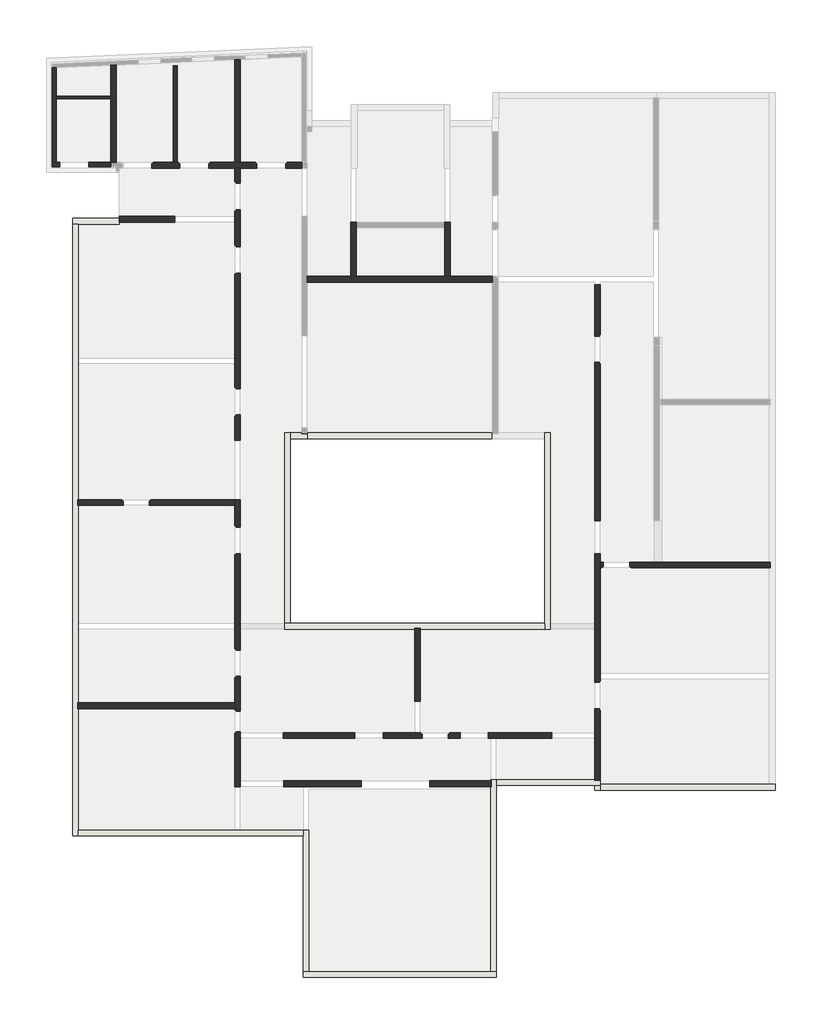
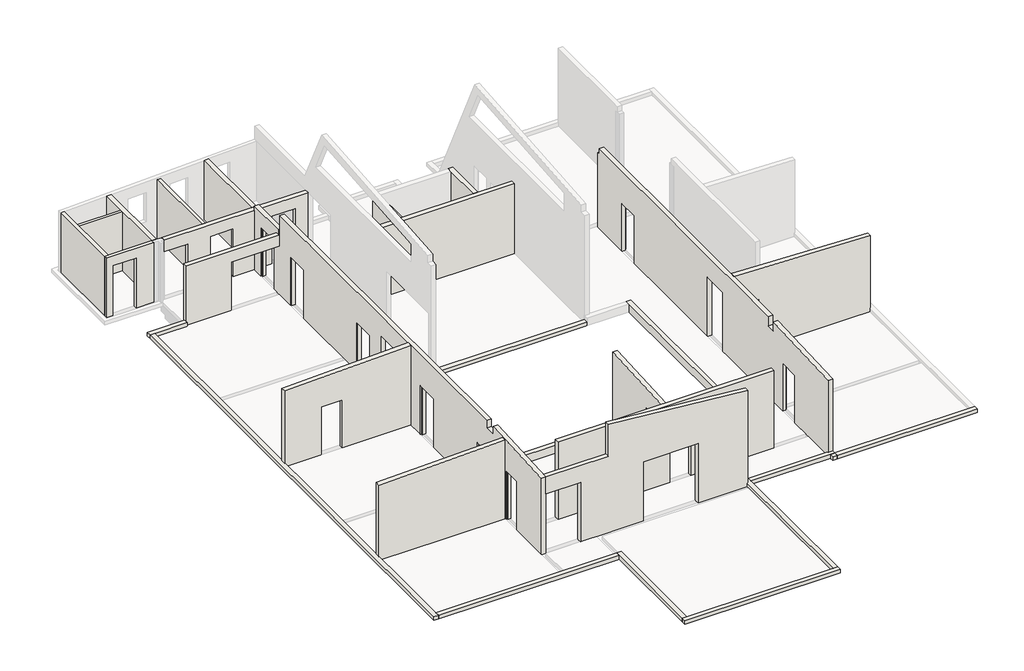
# One storey, part 1 of 2: 33 walls.
"""IFC4 building model written with IfcOpenShell, lengths in millimetres."""

import ifcopenshell
import ifcopenshell.guid

model = None  # the IFC model being written
_history = None  # IfcOwnerHistory: only IFC2X3 demands one
_inside = {}  # id of a spatial element -> (the spatial element, [elements in it])
_under = {}  # id of a project, library or spatial element -> (it, [spatial elements below it])
_declared = {}  # id of a project -> (the project, [libraries it declares])
_typed = {}  # id of a type object -> (the type object, [elements of that type])
_made_of = {}  # id of a material, layer set ... -> (it, [elements and type objects made of it])


def new_model(schema):
    """Start an empty IFC model of exactly this schema.

    Asked for "IFC4X3", IfcOpenShell would pick the latest addendum, in which some entities
    have other attributes; the version numbers below select the first issue.
    IFC2X3 requires an IfcOwnerHistory on every rooted entity: one is made here for all.
    """
    global model, _history
    if schema == "IFC4X3":
        model = ifcopenshell.file(schema_version=(4, 3, 0, 0))
    else:
        model = ifcopenshell.file(schema=schema)
    _inside.clear()
    _under.clear()
    _declared.clear()
    _typed.clear()
    _made_of.clear()
    _history = None
    if model.schema == "IFC2X3":
        org = make("IfcOrganization", Name="unknown")
        user = make(
            "IfcPersonAndOrganization",
            ThePerson=make("IfcPerson", FamilyName="unknown"),
            TheOrganization=org,
        )
        app = make(
            "IfcApplication",
            ApplicationDeveloper=org,
            Version="unknown",
            ApplicationFullName="unknown",
            ApplicationIdentifier="unknown",
        )
        _history = make(
            "IfcOwnerHistory",
            OwningUser=user,
            OwningApplication=app,
            ChangeAction="ADDED",
            CreationDate=0,
        )
    return model


def make(cls, **values):
    """One entity of the class cls with the attributes given. An attribute that is None is left unset."""
    return model.create_entity(
        cls, **{name: value for name, value in values.items() if value is not None}
    )


def rooted(cls, **values):
    """An entity with a GlobalId (a new one), such as an element, a storey or a relation."""
    return make(cls, GlobalId=ifcopenshell.guid.new(), OwnerHistory=_history, **values)


def si_unit(unit_type, name, prefix=None):
    """IfcSIUnit, for example si_unit("LENGTHUNIT", "METRE", prefix="MILLI")."""
    return make("IfcSIUnit", UnitType=unit_type, Prefix=prefix, Name=name)


def assignment(units):
    """IfcUnitAssignment: the units of a project."""
    return None if units is None else make("IfcUnitAssignment", Units=units)


def point(xyz):
    """IfcCartesianPoint."""
    return None if xyz is None else make("IfcCartesianPoint", Coordinates=xyz)


def direction(xyz):
    """IfcDirection."""
    return None if xyz is None else make("IfcDirection", DirectionRatios=xyz)


def frame(location, z_axis=None, x_axis=None):
    """IfcAxis2Placement3D, a coordinate frame: its origin and axes. An axis left out is left unset."""
    return make(
        "IfcAxis2Placement3D",
        Location=point(location),
        Axis=direction(z_axis),
        RefDirection=direction(x_axis),
    )


def origin():
    """The frame at (0, 0, 0) with its axes left unset."""
    return frame((0.0, 0.0, 0.0))


def place(relative_to, where):
    """IfcLocalPlacement: puts the frame where relative to a parent placement (None: the world)."""
    return make(
        "IfcLocalPlacement", PlacementRelTo=relative_to, RelativePlacement=where
    )


def context(
    kind, dimensions, precision=None, world=None, true_north=None, identifier=None
):
    """IfcGeometricRepresentationContext, for example the 3D "Model" context."""
    return make(
        "IfcGeometricRepresentationContext",
        ContextIdentifier=identifier,
        ContextType=kind,
        CoordinateSpaceDimension=dimensions,
        Precision=precision,
        WorldCoordinateSystem=world,
        TrueNorth=true_north,
    )


def project(units=None, contexts=None):
    """IfcProject with its units and contexts."""
    return rooted(
        "IfcProject",
        Name="project",
        RepresentationContexts=contexts,
        UnitsInContext=assignment(units),
    )


def spatial(cls, under=None, at=None, **own):
    """A site, building, storey or space (cls), placed at a placement, below another one or the project."""
    s = rooted(cls, ObjectPlacement=at, **own)
    if under is not None:
        _under.setdefault(under.id(), (under, []))[1].append(s)
    return s


def polyline(points):
    """IfcPolyline through the points."""
    return make("IfcPolyline", Points=[point(p) for p in points])


def outline(outer, holes=None, kind="AREA"):
    """IfcArbitraryClosedProfileDef: a profile drawn as a closed curve; with holes, ...WithVoids."""
    if holes is None:
        return make("IfcArbitraryClosedProfileDef", ProfileType=kind, OuterCurve=outer)
    return make(
        "IfcArbitraryProfileDefWithVoids",
        ProfileType=kind,
        OuterCurve=outer,
        InnerCurves=holes,
    )


def extrude(swept, where, along, depth):
    """IfcExtrudedAreaSolid: the profile swept, set in the frame where, extruded along a direction by depth."""
    return make(
        "IfcExtrudedAreaSolid",
        SweptArea=swept,
        Position=where,
        ExtrudedDirection=direction(along),
        Depth=depth,
    )


def faces_of(points, faces, orient=None, outer=None):
    """IfcFace entities. A face is a list of loops; a loop is a list of indices into points, from 0.

    orient and outer hold one flag for each loop. By default every Orientation is true, the
    first loop of a face is its IfcFaceOuterBound and the others are IfcFaceBound.
    """
    made = []
    for i, loops in enumerate(faces):
        bounds = []
        for j, loop in enumerate(loops):
            is_outer = j == 0 if outer is None else outer[i][j]
            bounds.append(
                make(
                    "IfcFaceOuterBound" if is_outer else "IfcFaceBound",
                    Bound=make("IfcPolyLoop", Polygon=[points[k] for k in loop]),
                    Orientation=True if orient is None else orient[i][j],
                )
            )
        made.append(make("IfcFace", Bounds=bounds))
    return made


def faceted_brep(points, faces, orient=None, outer=None, voids=None):
    """IfcFacetedBrep: a solid bounded by flat faces; with voids (closed shells), ...WithVoids."""
    shared = [point(p) for p in points]
    hull = make("IfcClosedShell", CfsFaces=faces_of(shared, faces, orient, outer))
    if voids is None:
        return make("IfcFacetedBrep", Outer=hull)
    return make(
        "IfcFacetedBrepWithVoids",
        Outer=hull,
        Voids=[
            make(cls, CfsFaces=faces_of(shared, fs, o, b)) for cls, fs, o, b in voids
        ],
    )


def shape(context_of_items, identifier, shape_type, items):
    """IfcShapeRepresentation: the items that make up one representation, for example the "Body"."""
    return make(
        "IfcShapeRepresentation",
        ContextOfItems=context_of_items,
        RepresentationIdentifier=identifier,
        RepresentationType=shape_type,
        Items=items,
    )


def made_of(thing, what):
    """Note that an element or type object is made of a material, layer set ...; save() writes the relation."""
    if what is not None:
        _made_of.setdefault(what.id(), (what, []))[1].append(thing)
    return thing


def element(
    cls,
    number,
    at=None,
    inside=None,
    cuts=None,
    type_object=None,
    material=None,
    context=None,
    identifier="Body",
    shape_type=None,
    held_by="IfcProductDefinitionShape",
    body=None,
    shapes=None,
    **own,
):
    """One element of the class cls, such as IfcWall. Its Tag is "e" and its number.

    at: its placement. inside: the storey or other place that contains it. cuts: it is an
    opening in that element (IfcRelVoidsElement). A single representation is given by context,
    identifier, shape_type and body (its items); several are given by shapes. held_by: the class
    of the entity that holds the representations. save() writes the other relations.
    """
    e = rooted(cls, Tag="e%d" % number, ObjectPlacement=at, **own)
    if body is not None:
        shapes = [shape(context, identifier, shape_type, body)]
    if shapes is not None:
        e.Representation = make(held_by, Representations=shapes)
    if inside is not None:
        _inside.setdefault(inside.id(), (inside, []))[1].append(e)
    if cuts is not None:
        rooted(
            "IfcRelVoidsElement", RelatingBuildingElement=cuts, RelatedOpeningElement=e
        )
    if type_object is not None:
        _typed.setdefault(type_object.id(), (type_object, []))[1].append(e)
    return made_of(e, material)


def aggregate(whole, parts):
    """IfcRelAggregates: a whole, such as a stair, and the parts it consists of."""
    return rooted("IfcRelAggregates", RelatingObject=whole, RelatedObjects=parts)


def save(model, path):
    """Write the relations noted so far, then the file.

    IfcRelAggregates (storeys below a building ...), IfcRelContainedInSpatialStructure (elements
    in a storey), IfcRelDefinesByType, IfcRelAssociatesMaterial and IfcRelDeclares: one each for
    every whole, place, type object, material and project.
    """
    for whole, parts in _under.values():
        aggregate(whole, parts)
    for where, things in _inside.values():
        rooted(
            "IfcRelContainedInSpatialStructure",
            RelatedElements=things,
            RelatingStructure=where,
        )
    for kind, things in _typed.values():
        rooted("IfcRelDefinesByType", RelatedObjects=things, RelatingType=kind)
    for what, things in _made_of.values():
        rooted("IfcRelAssociatesMaterial", RelatedObjects=things, RelatingMaterial=what)
    for by, libraries in _declared.values():
        rooted("IfcRelDeclares", RelatingContext=by, RelatedDefinitions=libraries)
    model.write(path)


model = new_model("IFC4")

# Units and contexts
model_context = context("Model", 3, world=origin())
ifc_project = project(units=[si_unit("LENGTHUNIT", "METRE", prefix="MILLI")], contexts=[model_context])

# Site, building, storey
site = spatial("IfcSite", under=ifc_project)
building = spatial("IfcBuilding", under=site)
storey = spatial("IfcBuildingStorey", under=building, Name="Dalle brute", Elevation=-170.0)

# Walls
placement = place(None, origin())
element("IfcWall", 1, ObjectType="Ext.surbot 17", at=placement, inside=storey, context=model_context, shape_type="Brep", body=[
    faceted_brep([(-5838.9922803, -18073.3410127, -170.0), (1018.0077197, -18073.3410127, -170.0), (1018.0077197, -18073.3410127, 0.0), (-5838.9922803, -18073.3410127, 0.0), (-5838.9922803, -17873.3410127, -170.0), (-5838.9922803, -17873.3410127, 0.0), (-5638.9922803, -17873.3410127, 0.0), (818.0077197, -17873.3410127, 0.0), (1018.0077197, -17873.3410127, 0.0), (1018.0077197, -17873.3410127, -170.0), (818.0077197, -17873.3410127, -170.0), (-5638.9922803, -17873.3410127, -170.0)], [[[0, 1, 2, 3]], [[4, 5, 6, 7, 8, 9, 10, 11]], [[1, 0, 4, 11, 10, 9]], [[3, 2, 8, 7, 6, 5]], [[2, 1, 9, 8]], [[0, 3, 5, 4]]]),
])
element("IfcWall", 2, ObjectType="Ext.surbot 17", at=placement, inside=storey, context=model_context, shape_type="Brep", body=[
    faceted_brep([(818.0077197, -11046.3410127, -170.0), (818.0077197, -17873.3410127, -170.0), (818.0077197, -17873.3410127, 0.0), (818.0077197, -11046.3410127, 0.0), (1018.0077197, -11046.3410127, -170.0), (1018.0077197, -11046.3410127, 0.0), (1018.0077197, -11246.3410127, 0.0), (1018.0077197, -17873.3410127, 0.0), (1018.0077197, -17873.3410127, -170.0), (1018.0077197, -11246.3410127, -170.0)], [[[0, 1, 2, 3]], [[4, 5, 6, 7, 8, 9]], [[1, 0, 4, 9, 8]], [[3, 2, 7, 6, 5]], [[2, 1, 8, 7]], [[0, 3, 5, 4]]]),
])
element("IfcWall", 3, ObjectType="Ext.surbot 17", at=placement, inside=storey, context=model_context, shape_type="Brep", body=[
    faceted_brep([(-5638.9922803, -17873.3410127, -170.0), (-5638.9922803, -12845.3410127, -170.0), (-5638.9922803, -12845.3410127, 0.0), (-5638.9922803, -17873.3410127, 0.0), (-5838.9922803, -17873.3410127, -170.0), (-5838.9922803, -17873.3410127, 0.0), (-5838.9922803, -13045.3410127, 0.0), (-5838.9922803, -12845.3410127, 0.0), (-5838.9922803, -12845.3410127, -170.0), (-5838.9922803, -13045.3410127, -170.0)], [[[0, 1, 2, 3]], [[4, 5, 6, 7, 8, 9]], [[1, 0, 4, 9, 8]], [[3, 2, 7, 6, 5]], [[0, 3, 5, 4]], [[2, 1, 8, 7]]]),
])
element("IfcWall", 4, ObjectType="Ext.surbot 17", at=placement, inside=storey, context=model_context, shape_type="SweptSolid", body=[
    extrude(outline(polyline([(-13820.5383156, -12845.3410127), (-5838.9922803, -12845.3410127), (-5838.9922803, -13045.3410127), (-13820.5383156, -13045.3410127), (-13820.5383156, -12845.3410127)])), frame((0.0, 0.0, -170.0), z_axis=(0.0, 0.0, 1.0), x_axis=(1.0, 0.0, 0.0)), (0.0, 0.0, 1.0), 170.0),
])
element("IfcWall", 5, ObjectType="Ext.surbot 17", at=placement, inside=storey, context=model_context, shape_type="Brep", body=[
    faceted_brep([(-13820.5383156, -13045.3410127, -170.0), (-13820.5383156, -12845.3410127, -170.0), (-13820.5383156, 8675.6589873, -170.0), (-13820.5383156, 8675.6589873, 0.0), (-13820.5383156, -12845.3410127, 0.0), (-13820.5383156, -13045.3410127, 0.0), (-14020.5383156, -13045.3410127, -170.0), (-14020.5383156, -13045.3410127, 0.0), (-14020.5383156, 8675.6589873, 0.0), (-14020.5383156, 8675.6589873, -170.0)], [[[0, 1, 2, 3, 4, 5]], [[6, 7, 8, 9]], [[2, 1, 0, 6, 9]], [[5, 4, 3, 8, 7]], [[3, 2, 9, 8]], [[0, 5, 7, 6]]]),
])
element("IfcWall", 6, ObjectType="Ext.surbot 17", at=placement, inside=storey, context=model_context, shape_type="Brep", body=[
    faceted_brep([(4718.0077197, -11046.3410127, -170.0), (1018.0077197, -11046.3410127, -170.0), (1018.0077197, -11046.3410127, 0.0), (4718.0077197, -11046.3410127, 0.0), (4718.0077197, -11246.3410127, -170.0), (4718.0077197, -11246.3410127, 0.0), (4519.0077197, -11246.3410127, 0.0), (1018.0077197, -11246.3410127, 0.0), (1018.0077197, -11246.3410127, -170.0), (4519.0077197, -11246.3410127, -170.0)], [[[0, 1, 2, 3]], [[4, 5, 6, 7, 8, 9]], [[1, 0, 4, 9, 8]], [[3, 2, 7, 6, 5]], [[0, 3, 5, 4]], [[2, 1, 8, 7]]]),
])
element("IfcWall", 7, ObjectType="Ext.surbot 17", at=placement, inside=storey, context=model_context, shape_type="Brep", body=[
    faceted_brep([(10919.0077197, -11219.3410127, -170.0), (10719.0077197, -11219.3410127, -170.0), (4719.0077197, -11219.3410127, -170.0), (4719.0077197, -11219.3410127, 0.0), (10719.0077197, -11219.3410127, 0.0), (10919.0077197, -11219.3410127, 0.0), (10919.0077197, -11419.3410127, -170.0), (10919.0077197, -11419.3410127, 0.0), (4719.0077197, -11419.3410127, 0.0), (4719.0077197, -11419.3410127, -170.0)], [[[0, 1, 2, 3, 4, 5]], [[6, 7, 8, 9]], [[2, 1, 0, 6, 9]], [[3, 2, 9, 8]], [[5, 4, 3, 8, 7]], [[0, 5, 7, 6]]]),
])
element("IfcWall", 8, ObjectType="Ext.surbot 17", at=placement, inside=storey, context=model_context, shape_type="Brep", body=[
    faceted_brep([(4519.0077197, -11246.3410127, -170.0), (4519.0077197, -11419.3410127, -170.0), (4519.0077197, -11419.3410127, 0.0), (4519.0077197, -11246.3410127, 0.0), (4719.0077197, -11246.3410127, -170.0), (4719.0077197, -11246.3410127, 0.0), (4719.0077197, -11419.3410127, 0.0), (4719.0077197, -11419.3410127, -170.0), (4718.0077197, -11246.3410127, -170.0), (4718.0077197, -11246.3410127, 0.0)], [[[0, 1, 2, 3]], [[4, 5, 6, 7]], [[1, 0, 8, 4, 7]], [[2, 1, 7, 6]], [[3, 2, 6, 5, 9]], [[0, 3, 9, 5, 4, 8]]]),
])
element("IfcWall", 9, ObjectType="Ext.surbot 37", at=placement, inside=storey, context=model_context, shape_type="Brep", body=[
    faceted_brep([(2935.0077197, -5705.3410127, -170.0), (2935.0077197, 1261.6589873, -170.0), (2935.0077197, 1261.6589873, 200.0), (2935.0077197, -5705.3410127, 200.0), (2735.0077197, -5705.3410127, -170.0), (2735.0077197, -5705.3410127, 200.0), (2735.0077197, -5505.3410127, 200.0), (2735.0077197, 1061.6589873, 200.0), (2735.0077197, 1261.6589873, 200.0), (2735.0077197, 1261.6589873, -170.0), (2735.0077197, 1061.6589873, -170.0), (2735.0077197, -5505.3410127, -170.0)], [[[0, 1, 2, 3]], [[4, 5, 6, 7, 8, 9, 10, 11]], [[1, 0, 4, 11, 10, 9]], [[3, 2, 8, 7, 6, 5]], [[0, 3, 5, 4]], [[2, 1, 9, 8]]]),
])
element("IfcWall", 10, ObjectType="Ext.surbot 37", at=placement, inside=storey, context=model_context, shape_type="Brep", body=[
    faceted_brep([(2735.0077197, -5505.3410127, -170.0), (-6294.9922803, -5505.3410127, -170.0), (-6494.9922803, -5505.3410127, -170.0), (-6494.9922803, -5505.3410127, 200.0), (-6294.9922803, -5505.3410127, 200.0), (2735.0077197, -5505.3410127, 200.0), (2735.0077197, -5705.3410127, -170.0), (2735.0077197, -5705.3410127, 200.0), (-6494.9922803, -5705.3410127, 200.0), (-6494.9922803, -5705.3410127, -170.0)], [[[0, 1, 2, 3, 4, 5]], [[6, 7, 8, 9]], [[2, 1, 0, 6, 9]], [[5, 4, 3, 8, 7]], [[3, 2, 9, 8]], [[0, 5, 7, 6]]]),
])
element("IfcWall", 11, ObjectType="Ext.surbot 37", at=placement, inside=storey, context=model_context, shape_type="Brep", body=[
    faceted_brep([(-6294.9922803, -5505.3410127, -170.0), (-6294.9922803, 1061.6589873, -170.0), (-6294.9922803, 1261.6589873, -170.0), (-6294.9922803, 1261.6589873, 200.0), (-6294.9922803, 1061.6589873, 200.0), (-6294.9922803, -5505.3410127, 200.0), (-6494.9922803, -5505.3410127, -170.0), (-6494.9922803, -5505.3410127, 200.0), (-6494.9922803, 1261.6589873, 200.0), (-6494.9922803, 1261.6589873, -170.0)], [[[0, 1, 2, 3, 4, 5]], [[6, 7, 8, 9]], [[2, 1, 0, 6, 9]], [[5, 4, 3, 8, 7]], [[0, 5, 7, 6]], [[3, 2, 9, 8]]]),
])
element("IfcWall", 12, ObjectType="Ext.surbot 17", at=placement, inside=storey, context=model_context, shape_type="Brep", body=[
    faceted_brep([(-12375.5383156, 8875.6589873, -170.0), (-14020.5383156, 8875.6589873, -170.0), (-14020.5383156, 8875.6589873, 0.0), (-12375.5383156, 8875.6589873, 0.0), (-12375.5383156, 8675.6589873, -170.0), (-12375.5383156, 8675.6589873, 0.0), (-13820.5383156, 8675.6589873, 0.0), (-14020.5383156, 8675.6589873, 0.0), (-14020.5383156, 8675.6589873, -170.0), (-13820.5383156, 8675.6589873, -170.0)], [[[0, 1, 2, 3]], [[4, 5, 6, 7, 8, 9]], [[1, 0, 4, 9, 8]], [[3, 2, 7, 6, 5]], [[0, 3, 5, 4]], [[2, 1, 8, 7]]]),
])
element("IfcWall", 13, ObjectType="Ext.surbot 37", at=placement, inside=storey, context=model_context, shape_type="SweptSolid", body=[
    extrude(outline(polyline([(-5685.5383156, 1061.6589873), (-6294.9922803, 1061.6589873), (-6294.9922803, 1261.6589873), (-5685.5383156, 1261.6589873), (-5685.5383156, 1061.6589873)])), frame((0.0, 0.0, -170.0), z_axis=(0.0, 0.0, 1.0), x_axis=(1.0, 0.0, 0.0)), (0.0, 0.0, 1.0), 370.0),
])
element("IfcWall", 14, ObjectType="Ext.surbot 17", at=placement, inside=storey, context=model_context, shape_type="SweptSolid", body=[
    extrude(outline(polyline([(884.4616844, 1061.6589873), (-5685.5383156, 1061.6589873), (-5685.5383156, 1261.6589873), (884.4616844, 1261.6589873), (884.4616844, 1061.6589873)])), frame((0.0, 0.0, -170.0), z_axis=(0.0, 0.0, 1.0), x_axis=(1.0, 0.0, 0.0)), (0.0, 0.0, 1.0), 170.0),
])
element("IfcWall", 15, ObjectType="Ext. BBM 10 cm", at=placement, inside=storey, context=model_context, shape_type="SweptSolid", body=[
    extrude(outline(polyline([(-14599.5383156, 13221.6589873), (-12675.5383156, 13221.6589873), (-12675.5383156, 13121.6589873), (-14599.5383156, 13121.6589873), (-14599.5383156, 13221.6589873)])), frame((0.0, 0.0, -170.0), z_axis=(0.0, 0.0, 1.0), x_axis=(1.0, 0.0, 0.0)), (0.0, 0.0, 1.0), 2770.0),
])
element("IfcWall", 16, ObjectType="Ext. BBM 15 cm", at=placement, inside=storey, context=model_context, shape_type="Brep", body=[
    faceted_brep([(-14749.5383156, 10716.6589873, -170.0), (-14484.5383156, 10716.6589873, -170.0), (-14484.5383156, 10716.6589873, 2165.0), (-13455.5383156, 10716.6589873, 2165.0), (-13455.5383156, 10716.6589873, -170.0), (-12675.5383156, 10716.6589873, -170.0), (-12675.5383156, 10716.6589873, 2600.0), (-14749.5383156, 10716.6589873, 2600.0), (-14749.5383156, 10866.6589873, -170.0), (-14749.5383156, 10866.6589873, 2600.0), (-14599.5383156, 10866.6589873, 2600.0), (-12675.5383156, 10866.6589873, 2600.0), (-12675.5383156, 10866.6589873, -170.0), (-13455.5383156, 10866.6589873, -170.0), (-13455.5383156, 10866.6589873, 2165.0), (-14484.5383156, 10866.6589873, 2165.0), (-14484.5383156, 10866.6589873, -170.0), (-14599.5383156, 10866.6589873, -170.0)], [[[0, 1, 2, 3, 4, 5, 6, 7]], [[8, 9, 10, 11, 12, 13, 14, 15, 16, 17]], [[0, 7, 9, 8]], [[5, 4, 13, 12]], [[6, 5, 12, 11]], [[7, 6, 11, 10, 9]], [[1, 0, 8, 17, 16]], [[2, 1, 16, 15]], [[3, 2, 15, 14]], [[4, 3, 14, 13]]]),
])
element("IfcWall", 17, ObjectType="Ext. BBM 15 cm", at=placement, inside=storey, context=model_context, shape_type="SweptSolid", body=[
    extrude(outline(polyline([(-14749.5383156, 10866.6589873), (-14749.5383156, 14226.656559), (-14599.5383156, 14233.2240998), (-14599.5383156, 10866.6589873), (-14749.5383156, 10866.6589873)])), frame((0.0, 0.0, -170.0), z_axis=(0.0, 0.0, 1.0), x_axis=(1.0, 0.0, 0.0)), (0.0, 0.0, 1.0), 2770.0),
])
element("IfcWall", 18, ObjectType="Ext. BBM 15 cm", at=placement, inside=storey, context=model_context, shape_type="SweptSolid", body=[
    extrude(outline(polyline([(-10455.5383156, 10866.6589873), (-10455.5383156, 14298.3849689), (-10305.5383156, 14298.3849689), (-10305.5383156, 10866.6589873), (-10455.5383156, 10866.6589873)])), frame((0.0, 0.0, -170.0), z_axis=(0.0, 0.0, 1.0), x_axis=(1.0, 0.0, 0.0)), (0.0, 0.0, 1.0), 2770.0),
])
element("IfcWall", 19, ObjectType="Ext. BBM 20 cm", at=placement, inside=storey, context=model_context, shape_type="SweptSolid", body=[
    extrude(outline(polyline([(-12675.5383156, 10866.6589873), (-12675.5383156, 14317.4637575), (-12475.5383156, 14326.2204786), (-12475.5383156, 10866.6589873), (-12675.5383156, 10866.6589873)])), frame((0.0, 0.0, -170.0), z_axis=(0.0, 0.0, 1.0), x_axis=(1.0, 0.0, 0.0)), (0.0, 0.0, 1.0), 2770.0),
])
element("IfcWall", 20, ObjectType="Ext. BBM 20 cm", at=placement, inside=storey, context=model_context, shape_type="SweptSolid", body=[
    extrude(outline(polyline([(-8265.5383156, 10866.6589873), (-8265.5383156, 14510.5494592), (-8065.5383156, 14519.3061804), (-8065.5383156, 10866.6589873), (-8265.5383156, 10866.6589873)])), frame((0.0, 0.0, -170.0), z_axis=(0.0, 0.0, 1.0), x_axis=(1.0, 0.0, 0.0)), (0.0, 0.0, 1.0), 2770.0),
])
element("IfcWall", 21, ObjectType="Ext. BBM 20 cm", at=placement, inside=storey, context=model_context, shape_type="SweptSolid", body=[
    extrude(outline(polyline([(-5680.3410127, -170.0), (-8260.3410127, -170.0), (-8260.3410127, 2600.0), (-9380.3410127, 2600.0), (-9380.3410127, 3460.0), (-5680.3410127, 3660.0), (-5680.3410127, -170.0)])), frame((-1873.2652979, 0.0, 0.0), z_axis=(1.0, 0.0, 0.0), x_axis=(0.0, 1.0, 0.0)), (0.0, 0.0, 1.0), 200.0),
])
element("IfcWall", 22, ObjectType="Ext. BBM 20 cm", at=placement, inside=storey, context=model_context, shape_type="SweptSolid", body=[
    extrude(outline(polyline([(-170.0, -8265.5383156), (3510.0, -8265.5383156), (3350.0, -13845.5383156), (-170.0, -13845.5383156), (-170.0, -8265.5383156)])), frame((0.0, -8528.3410127, 0.0), z_axis=(0.0, 1.0, 0.0), x_axis=(0.0, 0.0, 1.0)), (0.0, 0.0, 1.0), 200.0),
])
element("IfcWall", 23, ObjectType="Ext. BBM 20 cm", at=placement, inside=storey, context=model_context, shape_type="Brep", body=[
    faceted_brep([(-13845.5383156, -1113.3410127, -170.0), (-13845.5383156, -1113.3410127, 3370.0), (-8265.5383156, -1113.3410127, 3560.0), (-8265.5383156, -1113.3410127, -170.0), (-11245.5383156, -1113.3410127, -170.0), (-11245.5383156, -1113.3410127, 2110.0), (-12280.5383156, -1113.3410127, 2110.0), (-12280.5383156, -1113.3410127, -170.0), (-13845.5383156, -1313.3410127, 3370.0), (-13845.5383156, -1313.3410127, -170.0), (-12230.5383156, -1313.3410127, -170.0), (-12230.5383156, -1313.3410127, 2060.0), (-11295.5383156, -1313.3410127, 2060.0), (-11295.5383156, -1313.3410127, -170.0), (-8265.5383156, -1313.3410127, -170.0), (-8265.5383156, -1313.3410127, 3560.0), (-12280.5383156, -1163.3410127, -170.0), (-12230.5383156, -1163.3410127, -170.0), (-11295.5383156, -1163.3410127, -170.0), (-11245.5383156, -1163.3410127, -170.0), (-12230.5383156, -1163.3410127, 2060.0), (-11295.5383156, -1163.3410127, 2060.0), (-11245.5383156, -1163.3410127, 2110.0), (-12280.5383156, -1163.3410127, 2110.0)], [[[0, 1, 2, 3, 4, 5, 6, 7]], [[8, 9, 10, 11, 12, 13, 14, 15]], [[9, 0, 7, 16, 17, 10]], [[3, 14, 13, 18, 19, 4]], [[1, 0, 9, 8]], [[3, 2, 15, 14]], [[2, 1, 8, 15]], [[20, 21, 12, 11]], [[21, 18, 13, 12]], [[17, 20, 11, 10]], [[19, 22, 5, 4]], [[21, 20, 17, 16, 23, 22, 19, 18]], [[5, 22, 23, 6]], [[23, 16, 7, 6]]]),
])
element("IfcWall", 24, ObjectType="Ext. BBM 20 cm", at=placement, inside=storey, context=model_context, shape_type="Brep", body=[
    faceted_brep([(4719.0077197, -3333.3410127, -170.0), (4719.0077197, -3333.3410127, 3580.0), (10744.0077197, -3333.3410127, 3370.0), (10744.0077197, -3333.3410127, -170.0), (5754.0077197, -3333.3410127, -170.0), (5754.0077197, -3333.3410127, 2060.0), (4819.0077197, -3333.3410127, 2060.0), (4819.0077197, -3333.3410127, -170.0), (4719.0077197, -3533.3410127, 3580.0), (4719.0077197, -3533.3410127, -170.0), (4769.0077197, -3533.3410127, -170.0), (4769.0077197, -3533.3410127, 2110.0), (5804.0077197, -3533.3410127, 2110.0), (5804.0077197, -3533.3410127, -170.0), (10744.0077197, -3533.3410127, -170.0), (10744.0077197, -3533.3410127, 3370.0), (5754.0077197, -3483.3410127, 2060.0), (4819.0077197, -3483.3410127, 2060.0), (5754.0077197, -3483.3410127, -170.0), (4819.0077197, -3483.3410127, -170.0), (5804.0077197, -3483.3410127, 2110.0), (5804.0077197, -3483.3410127, -170.0), (4769.0077197, -3483.3410127, 2110.0), (4769.0077197, -3483.3410127, -170.0)], [[[0, 1, 2, 3, 4, 5, 6, 7]], [[8, 9, 10, 11, 12, 13, 14, 15]], [[16, 17, 6, 5]], [[18, 16, 5, 4]], [[17, 19, 7, 6]], [[12, 20, 21, 13]], [[17, 16, 18, 21, 20, 22, 23, 19]], [[20, 12, 11, 22]], [[23, 22, 11, 10]], [[9, 0, 7, 19, 23, 10]], [[3, 14, 13, 21, 18, 4]], [[1, 0, 9, 8]], [[3, 2, 15, 14]], [[2, 1, 8, 15]]]),
])
element("IfcWall", 25, ObjectType="Ext. BBM 20 cm", at=placement, inside=storey, context=model_context, shape_type="SweptSolid", body=[
    extrude(outline(polyline([(2090.0, -8265.5383156), (2600.0, -8265.5383156), (2600.0, -12375.5383156), (-170.0, -12375.5383156), (-170.0, -10400.5383156), (2090.0, -10400.5383156), (2090.0, -8265.5383156)])), frame((0.0, 8746.6589873, 0.0), z_axis=(0.0, 1.0, 0.0), x_axis=(0.0, 0.0, 1.0)), (0.0, 0.0, 1.0), 200.0),
])
element("IfcWall", 26, ObjectType="Ext. BBM 20 cm", at=placement, inside=storey, context=model_context, shape_type="Brep", body=[
    faceted_brep([(-5886.5383156, 10666.6589873, -170.0), (-5886.5383156, 10666.6589873, 2600.0), (-12240.5383156, 10666.6589873, 2600.0), (-12240.5383156, 10666.6589873, 2060.0), (-11205.5383156, 10666.6589873, 2060.0), (-11205.5383156, 10666.6589873, -170.0), (-10220.5383156, 10666.6589873, -170.0), (-10220.5383156, 10666.6589873, 2060.0), (-9185.5383156, 10666.6589873, 2060.0), (-9185.5383156, 10666.6589873, -170.0), (-7493.5383156, 10666.6589873, -170.0), (-7493.5383156, 10666.6589873, 2060.0), (-6458.5383156, 10666.6589873, 2060.0), (-6458.5383156, 10666.6589873, -170.0), (-5886.5383156, 10866.6589873, 2600.0), (-5886.5383156, 10866.6589873, -170.0), (-6408.5383156, 10866.6589873, -170.0), (-6408.5383156, 10866.6589873, 2110.0), (-7543.5383156, 10866.6589873, 2110.0), (-7543.5383156, 10866.6589873, -170.0), (-8065.5383156, 10866.6589873, -170.0), (-8265.5383156, 10866.6589873, -170.0), (-9135.5383156, 10866.6589873, -170.0), (-9135.5383156, 10866.6589873, 2110.0), (-10270.5383156, 10866.6589873, 2110.0), (-10270.5383156, 10866.6589873, -170.0), (-10305.5383156, 10866.6589873, -170.0), (-10455.5383156, 10866.6589873, -170.0), (-11155.5383156, 10866.6589873, -170.0), (-11155.5383156, 10866.6589873, 2110.0), (-12240.5383156, 10866.6589873, 2110.0), (-12240.5383156, 10866.6589873, 2600.0), (-10455.5383156, 10866.6589873, 2600.0), (-10305.5383156, 10866.6589873, 2600.0), (-8265.5383156, 10866.6589873, 2600.0), (-8065.5383156, 10866.6589873, 2600.0), (-6458.5383156, 10816.6589873, -170.0), (-6408.5383156, 10816.6589873, -170.0), (-7493.5383156, 10816.6589873, -170.0), (-9185.5383156, 10816.6589873, -170.0), (-9135.5383156, 10816.6589873, -170.0), (-7543.5383156, 10816.6589873, -170.0), (-10220.5383156, 10816.6589873, -170.0), (-11205.5383156, 10816.6589873, -170.0), (-11155.5383156, 10816.6589873, -170.0), (-10270.5383156, 10816.6589873, -170.0), (-12240.5383156, 10816.6589873, 2110.0), (-12240.5383156, 10816.6589873, 2060.0), (-7493.5383156, 10816.6589873, 2060.0), (-6458.5383156, 10816.6589873, 2060.0), (-6408.5383156, 10816.6589873, 2110.0), (-7543.5383156, 10816.6589873, 2110.0), (-10220.5383156, 10816.6589873, 2060.0), (-9185.5383156, 10816.6589873, 2060.0), (-9135.5383156, 10816.6589873, 2110.0), (-10270.5383156, 10816.6589873, 2110.0), (-11205.5383156, 10816.6589873, 2060.0), (-11155.5383156, 10816.6589873, 2110.0)], [[[0, 1, 2, 3, 4, 5, 6, 7, 8, 9, 10, 11, 12, 13]], [[14, 15, 16, 17, 18, 19, 20, 21, 22, 23, 24, 25, 26, 27, 28, 29, 30, 31, 32, 33, 34, 35]], [[15, 0, 13, 36, 37, 16]], [[38, 10, 9, 39, 40, 22, 21, 20, 19, 41]], [[42, 6, 5, 43, 44, 28, 27, 26, 25, 45]], [[1, 0, 15, 14]], [[2, 1, 14, 35, 34, 33, 32, 31]], [[2, 31, 30, 46, 47, 3]], [[48, 49, 12, 11]], [[49, 36, 13, 12]], [[38, 48, 11, 10]], [[37, 50, 17, 16]], [[49, 48, 38, 41, 51, 50, 37, 36]], [[17, 50, 51, 18]], [[51, 41, 19, 18]], [[52, 53, 8, 7]], [[53, 39, 9, 8]], [[42, 52, 7, 6]], [[40, 54, 23, 22]], [[53, 52, 42, 45, 55, 54, 40, 39]], [[23, 54, 55, 24]], [[55, 45, 25, 24]], [[47, 56, 4, 3]], [[56, 43, 5, 4]], [[44, 57, 29, 28]], [[56, 47, 46, 57, 44, 43]], [[29, 57, 46, 30]]]),
])
element("IfcWall", 27, ObjectType="Ext. Voile BA 20", at=placement, inside=storey, context=model_context, shape_type="Brep", body=[
    faceted_brep([(-8265.5383156, -11295.3410127, -170.0), (-8265.5383156, -11295.3410127, 3390.0), (-8265.5383156, -7595.3410127, 3570.0), (-8265.5383156, -7595.3410127, 3200.0), (-8265.5383156, -7095.3410127, 3200.0), (-8265.5383156, -7095.3410127, 3550.0), (-8265.5383156, 8704.6589873, 3550.0), (-8265.5383156, 8704.6589873, 2600.0), (-8265.5383156, 8746.6589873, 2600.0), (-8265.5383156, 8846.6589873, 2600.0), (-8265.5383156, 8846.6589873, 2800.0), (-8265.5383156, 10666.6589873, 2800.0), (-8265.5383156, 10666.6589873, -170.0), (-8265.5383156, 10172.6589873, -170.0), (-8265.5383156, 10172.6589873, 2110.0), (-8265.5383156, 9137.6589873, 2110.0), (-8265.5383156, 9137.6589873, -170.0), (-8265.5383156, 7922.6589873, -170.0), (-8265.5383156, 7922.6589873, 2110.0), (-8265.5383156, 6887.6589873, 2110.0), (-8265.5383156, 6887.6589873, -170.0), (-8265.5383156, 2882.6589873, -170.0), (-8265.5383156, 2882.6589873, 2110.0), (-8265.5383156, 1847.6589873, 2110.0), (-8265.5383156, 1847.6589873, -170.0), (-8265.5383156, 1007.6589873, -170.0), (-8265.5383156, 1007.6589873, 2600.0), (-8265.5383156, -1112.3410127, 2600.0), (-8265.5383156, -1112.3410127, -170.0), (-8265.5383156, -2037.3410127, -170.0), (-8265.5383156, -2037.3410127, 2110.0), (-8265.5383156, -3072.3410127, 2110.0), (-8265.5383156, -3072.3410127, -170.0), (-8265.5383156, -6397.3410127, -170.0), (-8265.5383156, -6397.3410127, 2110.0), (-8265.5383156, -7432.3410127, 2110.0), (-8265.5383156, -7432.3410127, -170.0), (-8265.5383156, -8567.3410127, -170.0), (-8265.5383156, -8567.3410127, 2110.0), (-8265.5383156, -9402.3410127, 2110.0), (-8265.5383156, -9402.3410127, -170.0), (-8065.5383156, -11295.3410127, 3390.0), (-8065.5383156, -11295.3410127, -170.0), (-8065.5383156, -9352.3410127, -170.0), (-8065.5383156, -9352.3410127, 2060.0), (-8065.5383156, -8617.3410127, 2060.0), (-8065.5383156, -8617.3410127, -170.0), (-8065.5383156, -7382.3410127, -170.0), (-8065.5383156, -7382.3410127, 2060.0), (-8065.5383156, -6447.3410127, 2060.0), (-8065.5383156, -6447.3410127, -170.0), (-8065.5383156, -3022.3410127, -170.0), (-8065.5383156, -3022.3410127, 2060.0), (-8065.5383156, -2087.3410127, 2060.0), (-8065.5383156, -2087.3410127, -170.0), (-8065.5383156, -1112.3410127, -170.0), (-8065.5383156, -1112.3410127, 2600.0), (-8065.5383156, 1007.6589873, 2600.0), (-8065.5383156, 1007.6589873, -170.0), (-8065.5383156, 1897.6589873, -170.0), (-8065.5383156, 1897.6589873, 2060.0), (-8065.5383156, 2832.6589873, 2060.0), (-8065.5383156, 2832.6589873, -170.0), (-8065.5383156, 6937.6589873, -170.0), (-8065.5383156, 6937.6589873, 2060.0), (-8065.5383156, 7872.6589873, 2060.0), (-8065.5383156, 7872.6589873, -170.0), (-8065.5383156, 9187.6589873, -170.0), (-8065.5383156, 9187.6589873, 2060.0), (-8065.5383156, 10122.6589873, 2060.0), (-8065.5383156, 10122.6589873, -170.0), (-8065.5383156, 10666.6589873, -170.0), (-8065.5383156, 10666.6589873, 2800.0), (-8065.5383156, 8946.6589873, 2800.0), (-8065.5383156, 8846.6589873, 2800.0), (-8065.5383156, 8846.6589873, 2600.0), (-8065.5383156, 8704.6589873, 2600.0), (-8065.5383156, 8704.6589873, 3550.0), (-8065.5383156, -7095.3410127, 3550.0), (-8065.5383156, -7095.3410127, 3200.0), (-8065.5383156, -7595.3410127, 3200.0), (-8065.5383156, -7595.3410127, 3570.0), (-8215.5383156, 10122.6589873, -170.0), (-8215.5383156, 10172.6589873, -170.0), (-8215.5383156, 1847.6589873, -170.0), (-8215.5383156, 1897.6589873, -170.0), (-8215.5383156, 2832.6589873, -170.0), (-8215.5383156, 2882.6589873, -170.0), (-8215.5383156, 6887.6589873, -170.0), (-8215.5383156, 6937.6589873, -170.0), (-8215.5383156, 7872.6589873, -170.0), (-8215.5383156, 7922.6589873, -170.0), (-8215.5383156, 9137.6589873, -170.0), (-8215.5383156, 9187.6589873, -170.0), (-8215.5383156, -9352.3410127, 2060.0), (-8215.5383156, -8617.3410127, 2060.0), (-8215.5383156, -9352.3410127, -170.0), (-8215.5383156, -8617.3410127, -170.0), (-8215.5383156, -9402.3410127, 2110.0), (-8215.5383156, -9402.3410127, -170.0), (-8215.5383156, -8567.3410127, 2110.0), (-8215.5383156, -8567.3410127, -170.0), (-8215.5383156, -7382.3410127, 2060.0), (-8215.5383156, -6447.3410127, 2060.0), (-8215.5383156, -7382.3410127, -170.0), (-8215.5383156, -6447.3410127, -170.0), (-8215.5383156, -7432.3410127, 2110.0), (-8215.5383156, -7432.3410127, -170.0), (-8215.5383156, -6397.3410127, 2110.0), (-8215.5383156, -6397.3410127, -170.0), (-8215.5383156, -3022.3410127, 2060.0), (-8215.5383156, -2087.3410127, 2060.0), (-8215.5383156, -3022.3410127, -170.0), (-8215.5383156, -2087.3410127, -170.0), (-8215.5383156, -3072.3410127, 2110.0), (-8215.5383156, -3072.3410127, -170.0), (-8215.5383156, -2037.3410127, 2110.0), (-8215.5383156, -2037.3410127, -170.0), (-8215.5383156, 1897.6589873, 2060.0), (-8215.5383156, 2832.6589873, 2060.0), (-8215.5383156, 1847.6589873, 2110.0), (-8215.5383156, 2882.6589873, 2110.0), (-8215.5383156, 6937.6589873, 2060.0), (-8215.5383156, 7872.6589873, 2060.0), (-8215.5383156, 6887.6589873, 2110.0), (-8215.5383156, 7922.6589873, 2110.0), (-8215.5383156, 9187.6589873, 2060.0), (-8215.5383156, 10122.6589873, 2060.0), (-8215.5383156, 9137.6589873, 2110.0), (-8215.5383156, 10172.6589873, 2110.0)], [[[0, 1, 2, 3, 4, 5, 6, 7, 8, 9, 10, 11, 12, 13, 14, 15, 16, 17, 18, 19, 20, 21, 22, 23, 24, 25, 26, 27, 28, 29, 30, 31, 32, 33, 34, 35, 36, 37, 38, 39, 40]], [[41, 42, 43, 44, 45, 46, 47, 48, 49, 50, 51, 52, 53, 54, 55, 56, 57, 58, 59, 60, 61, 62, 63, 64, 65, 66, 67, 68, 69, 70, 71, 72, 73, 74, 75, 76, 77, 78, 79, 80, 81]], [[12, 71, 70, 82, 83, 13]], [[58, 25, 24, 84, 85, 59]], [[62, 86, 87, 21, 20, 88, 89, 63]], [[66, 90, 91, 17, 16, 92, 93, 67]], [[1, 0, 42, 41]], [[12, 11, 72, 71]], [[2, 1, 41, 81]], [[3, 2, 81, 80]], [[4, 3, 80, 79]], [[5, 4, 79, 78]], [[94, 95, 45, 44]], [[96, 94, 44, 43]], [[95, 97, 46, 45]], [[98, 99, 40, 39]], [[95, 94, 96, 99, 98, 100, 101, 97]], [[98, 39, 38, 100]], [[101, 100, 38, 37]], [[102, 103, 49, 48]], [[104, 102, 48, 47]], [[103, 105, 50, 49]], [[106, 107, 36, 35]], [[103, 102, 104, 107, 106, 108, 109, 105]], [[106, 35, 34, 108]], [[109, 108, 34, 33]], [[110, 111, 53, 52]], [[112, 110, 52, 51]], [[111, 113, 54, 53]], [[114, 115, 32, 31]], [[111, 110, 112, 115, 114, 116, 117, 113]], [[114, 31, 30, 116]], [[117, 116, 30, 29]], [[26, 25, 58, 57]], [[27, 26, 57, 56]], [[28, 27, 56, 55]], [[28, 55, 54, 113, 117, 29]], [[42, 0, 40, 99, 96, 43]], [[46, 97, 101, 37, 36, 107, 104, 47]], [[50, 105, 109, 33, 32, 115, 112, 51]], [[118, 119, 61, 60]], [[85, 118, 60, 59]], [[119, 86, 62, 61]], [[120, 84, 24, 23]], [[119, 118, 85, 84, 120, 121, 87, 86]], [[120, 23, 22, 121]], [[87, 121, 22, 21]], [[122, 123, 65, 64]], [[89, 122, 64, 63]], [[123, 90, 66, 65]], [[124, 88, 20, 19]], [[123, 122, 89, 88, 124, 125, 91, 90]], [[124, 19, 18, 125]], [[91, 125, 18, 17]], [[126, 127, 69, 68]], [[93, 126, 68, 67]], [[127, 82, 70, 69]], [[15, 128, 92, 16]], [[127, 126, 93, 92, 128, 129, 83, 82]], [[128, 15, 14, 129]], [[83, 129, 14, 13]], [[7, 6, 77, 76]], [[9, 8, 7, 76, 75]], [[10, 9, 75, 74]], [[11, 10, 74, 73, 72]], [[6, 5, 78, 77]]]),
])
element("IfcWall", 28, ObjectType="Ext. Voile BA 20", at=placement, inside=storey, context=model_context, shape_type="SweptSolid", body=[
    extrude(outline(polyline([(-5685.5383156, 6816.6589873), (884.4616844, 6816.6589873), (884.4616844, 6616.6589873), (-5685.5383156, 6616.6589873), (-5685.5383156, 6816.6589873)])), frame((0.0, 0.0, -170.0), z_axis=(0.0, 0.0, 1.0), x_axis=(1.0, 0.0, 0.0)), (0.0, 0.0, 1.0), 3270.0),
])
element("IfcWall", 29, ObjectType="Ext. Voile BA 20", at=placement, inside=storey, context=model_context, shape_type="Brep", body=[
    faceted_brep([(-4003.0383156, -9380.3410127, -170.0), (-6538.0383156, -9380.3410127, -170.0), (-6538.0383156, -9380.3410127, 3460.0), (2986.9616844, -9380.3410127, 3460.0), (2986.9616844, -9380.3410127, -170.0), (736.9616844, -9380.3410127, -170.0), (736.9616844, -9380.3410127, 2500.0), (-263.0383156, -9380.3410127, 2500.0), (-263.0383156, -9380.3410127, -170.0), (-633.0383156, -9380.3410127, -170.0), (-633.0383156, -9380.3410127, 2110.0), (-1668.0383156, -9380.3410127, 2110.0), (-1668.0383156, -9380.3410127, -170.0), (-3003.0383156, -9380.3410127, -170.0), (-3003.0383156, -9380.3410127, 2500.0), (-4003.0383156, -9380.3410127, 2500.0), (-6538.0383156, -9580.3410127, -170.0), (-4003.0383156, -9580.3410127, -170.0), (-4003.0383156, -9580.3410127, 2500.0), (-3003.0383156, -9580.3410127, 2500.0), (-3003.0383156, -9580.3410127, -170.0), (-1618.0383156, -9580.3410127, -170.0), (-1618.0383156, -9580.3410127, 2060.0), (-683.0383156, -9580.3410127, 2060.0), (-683.0383156, -9580.3410127, -170.0), (-263.0383156, -9580.3410127, -170.0), (-263.0383156, -9580.3410127, 2500.0), (736.9616844, -9580.3410127, 2500.0), (736.9616844, -9580.3410127, -170.0), (2986.9616844, -9580.3410127, -170.0), (2986.9616844, -9580.3410127, 3460.0), (-6538.0383156, -9580.3410127, 3460.0), (-1618.0383156, -9430.3410127, 2060.0), (-683.0383156, -9430.3410127, 2060.0), (-683.0383156, -9430.3410127, -170.0), (-1618.0383156, -9430.3410127, -170.0), (-633.0383156, -9430.3410127, -170.0), (-633.0383156, -9430.3410127, 2110.0), (-1668.0383156, -9430.3410127, -170.0), (-1668.0383156, -9430.3410127, 2110.0)], [[[0, 1, 2, 3, 4, 5, 6, 7, 8, 9, 10, 11, 12, 13, 14, 15]], [[16, 17, 18, 19, 20, 21, 22, 23, 24, 25, 26, 27, 28, 29, 30, 31]], [[32, 33, 23, 22]], [[33, 34, 24, 23]], [[35, 32, 22, 21]], [[36, 37, 10, 9]], [[33, 32, 35, 38, 39, 37, 36, 34]], [[10, 37, 39, 11]], [[39, 38, 12, 11]], [[1, 0, 17, 16]], [[2, 1, 16, 31]], [[3, 2, 31, 30]], [[4, 3, 30, 29]], [[5, 4, 29, 28]], [[6, 5, 28, 27]], [[7, 6, 27, 26]], [[8, 7, 26, 25]], [[8, 25, 24, 34, 36, 9]], [[20, 13, 12, 38, 35, 21]], [[14, 13, 20, 19]], [[15, 14, 19, 18]], [[0, 15, 18, 17]]]),
])
element("IfcWall", 30, ObjectType="Ext. Voile BA 20", at=placement, inside=storey, context=model_context, shape_type="SweptSolid", body=[
    extrude(outline(polyline([(2600.0, -8065.5383156), (2600.0, -6535.5383156), (-170.0, -6535.5383156), (-170.0, -3776.9922803), (2600.0, -3776.9922803), (2600.0, -1346.9922803), (-170.0, -1346.9922803), (-170.0, 843.0077197), (4310.0, 843.0077197), (4870.0, -5305.5383156), (3390.0, -5305.5383156), (3390.0, -8065.5383156), (2600.0, -8065.5383156)])), frame((0.0, -11295.3410127, 0.0), z_axis=(0.0, 1.0, 0.0), x_axis=(0.0, 0.0, 1.0)), (0.0, 0.0, 1.0), 200.0),
])
element("IfcWall", 31, ObjectType="Ext. Voile BA 20", at=placement, inside=storey, context=model_context, shape_type="Brep", body=[
    faceted_brep([(4519.0077197, -11073.3410127, -170.0), (4519.0077197, -11073.3410127, 3370.0), (4519.0077197, -6898.3410127, 3560.0), (4519.0077197, -6898.3410127, 3140.0), (4519.0077197, -6498.3410127, 3140.0), (4519.0077197, -6498.3410127, 3580.0), (4519.0077197, 6416.6589873, 3580.0), (4519.0077197, 6416.6589873, 3320.0), (4519.0077197, 6526.6589873, 3320.0), (4519.0077197, 6526.6589873, -170.0), (4519.0077197, 4696.6589873, -170.0), (4519.0077197, 4696.6589873, 2060.0), (4519.0077197, 3761.6589873, 2060.0), (4519.0077197, 3761.6589873, -170.0), (4519.0077197, -1853.3410127, -170.0), (4519.0077197, -1853.3410127, 2600.0), (4519.0077197, -3032.3410127, 2600.0), (4519.0077197, -3032.3410127, -170.0), (4519.0077197, -7598.3410127, -170.0), (4519.0077197, -7598.3410127, 2060.0), (4519.0077197, -8533.3410127, 2060.0), (4519.0077197, -8533.3410127, -170.0), (4719.0077197, -11073.3410127, 3370.0), (4719.0077197, -11073.3410127, -170.0), (4719.0077197, -8583.3410127, -170.0), (4719.0077197, -8583.3410127, 2110.0), (4719.0077197, -7548.3410127, 2110.0), (4719.0077197, -7548.3410127, -170.0), (4719.0077197, -3032.3410127, -170.0), (4719.0077197, -3032.3410127, 2600.0), (4719.0077197, -1853.3410127, 2600.0), (4719.0077197, -1853.3410127, -170.0), (4719.0077197, 3711.6589873, -170.0), (4719.0077197, 3711.6589873, 2110.0), (4719.0077197, 4746.6589873, 2110.0), (4719.0077197, 4746.6589873, -170.0), (4719.0077197, 6526.6589873, -170.0), (4719.0077197, 6526.6589873, 3320.0), (4719.0077197, 6416.6589873, 3320.0), (4719.0077197, 6416.6589873, 3580.0), (4719.0077197, -6498.3410127, 3580.0), (4719.0077197, -6498.3410127, 3140.0), (4719.0077197, -6898.3410127, 3140.0), (4719.0077197, -6898.3410127, 3560.0), (4669.0077197, 4746.6589873, -170.0), (4669.0077197, 4696.6589873, -170.0), (4669.0077197, 3761.6589873, -170.0), (4669.0077197, 3711.6589873, -170.0), (4669.0077197, 4696.6589873, 2060.0), (4669.0077197, 3761.6589873, 2060.0), (4669.0077197, 3711.6589873, 2110.0), (4669.0077197, 4746.6589873, 2110.0), (4669.0077197, -7598.3410127, 2060.0), (4669.0077197, -8533.3410127, 2060.0), (4669.0077197, -8533.3410127, -170.0), (4669.0077197, -7598.3410127, -170.0), (4669.0077197, -8583.3410127, -170.0), (4669.0077197, -8583.3410127, 2110.0), (4669.0077197, -7548.3410127, -170.0), (4669.0077197, -7548.3410127, 2110.0)], [[[0, 1, 2, 3, 4, 5, 6, 7, 8, 9, 10, 11, 12, 13, 14, 15, 16, 17, 18, 19, 20, 21]], [[22, 23, 24, 25, 26, 27, 28, 29, 30, 31, 32, 33, 34, 35, 36, 37, 38, 39, 40, 41, 42, 43]], [[9, 36, 35, 44, 45, 10]], [[14, 13, 46, 47, 32, 31]], [[1, 0, 23, 22]], [[9, 8, 37, 36]], [[2, 1, 22, 43]], [[3, 2, 43, 42]], [[4, 3, 42, 41]], [[5, 4, 41, 40]], [[6, 5, 40, 39]], [[48, 49, 12, 11]], [[49, 46, 13, 12]], [[45, 48, 11, 10]], [[47, 50, 33, 32]], [[49, 48, 45, 44, 51, 50, 47, 46]], [[33, 50, 51, 34]], [[51, 44, 35, 34]], [[52, 53, 20, 19]], [[53, 54, 21, 20]], [[55, 52, 19, 18]], [[56, 57, 25, 24]], [[53, 52, 55, 58, 59, 57, 56, 54]], [[25, 57, 59, 26]], [[59, 58, 27, 26]], [[15, 14, 31, 30]], [[16, 15, 30, 29]], [[17, 16, 29, 28]], [[17, 28, 27, 58, 55, 18]], [[23, 0, 21, 54, 56, 24]], [[7, 6, 39, 38]], [[8, 7, 38, 37]]]),
])
element("IfcWall", 32, ObjectType="Ext. Voile BA 20", at=placement, inside=storey, context=model_context, shape_type="Brep", body=[
    faceted_brep([(-815.5383156, 8741.6589873, -170.0), (-815.5383156, 8541.6589873, -170.0), (-815.5383156, 6816.6589873, -170.0), (-815.5383156, 6816.6589873, 3100.0), (-815.5383156, 8541.6589873, 3100.0), (-815.5383156, 8741.6589873, 3100.0), (-615.5383156, 8741.6589873, -170.0), (-615.5383156, 8741.6589873, 3100.0), (-615.5383156, 6816.6589873, 3100.0), (-615.5383156, 6816.6589873, -170.0)], [[[0, 1, 2, 3, 4, 5]], [[6, 7, 8, 9]], [[2, 1, 0, 6, 9]], [[3, 2, 9, 8]], [[5, 4, 3, 8, 7]], [[0, 5, 7, 6]]]),
])
element("IfcWall", 33, ObjectType="Ext. Voile BA 20", at=placement, inside=storey, context=model_context, shape_type="Brep", body=[
    faceted_brep([(-4155.5383156, 8741.6589873, -170.0), (-4155.5383156, 6816.6589873, -170.0), (-4155.5383156, 6816.6589873, 3100.0), (-4155.5383156, 8741.6589873, 3100.0), (-3955.5383156, 8741.6589873, -170.0), (-3955.5383156, 8741.6589873, 3100.0), (-3955.5383156, 8541.6589873, 3100.0), (-3955.5383156, 6816.6589873, 3100.0), (-3955.5383156, 6816.6589873, -170.0), (-3955.5383156, 8541.6589873, -170.0)], [[[0, 1, 2, 3]], [[4, 5, 6, 7, 8, 9]], [[1, 0, 4, 9, 8]], [[2, 1, 8, 7]], [[3, 2, 7, 6, 5]], [[0, 3, 5, 4]]]),
])

save(model, "model.ifc")
